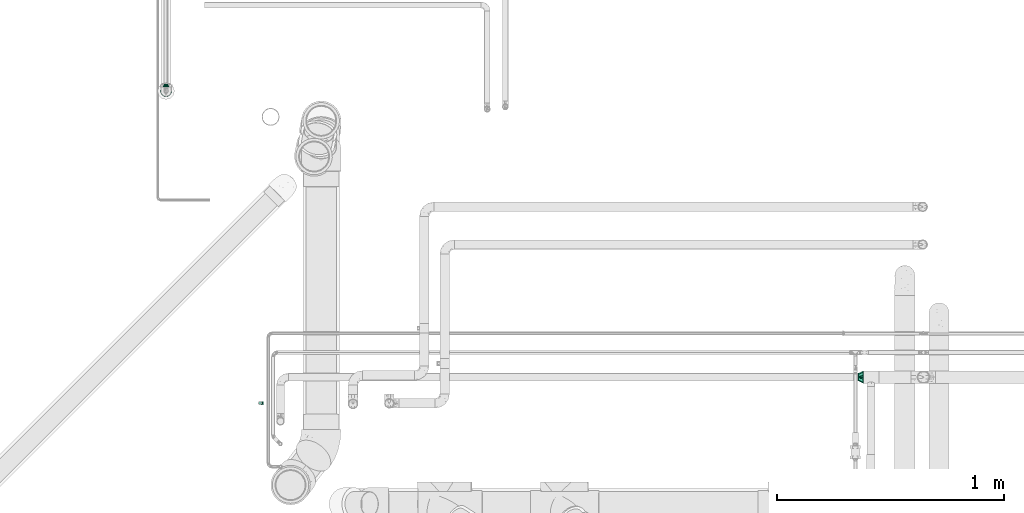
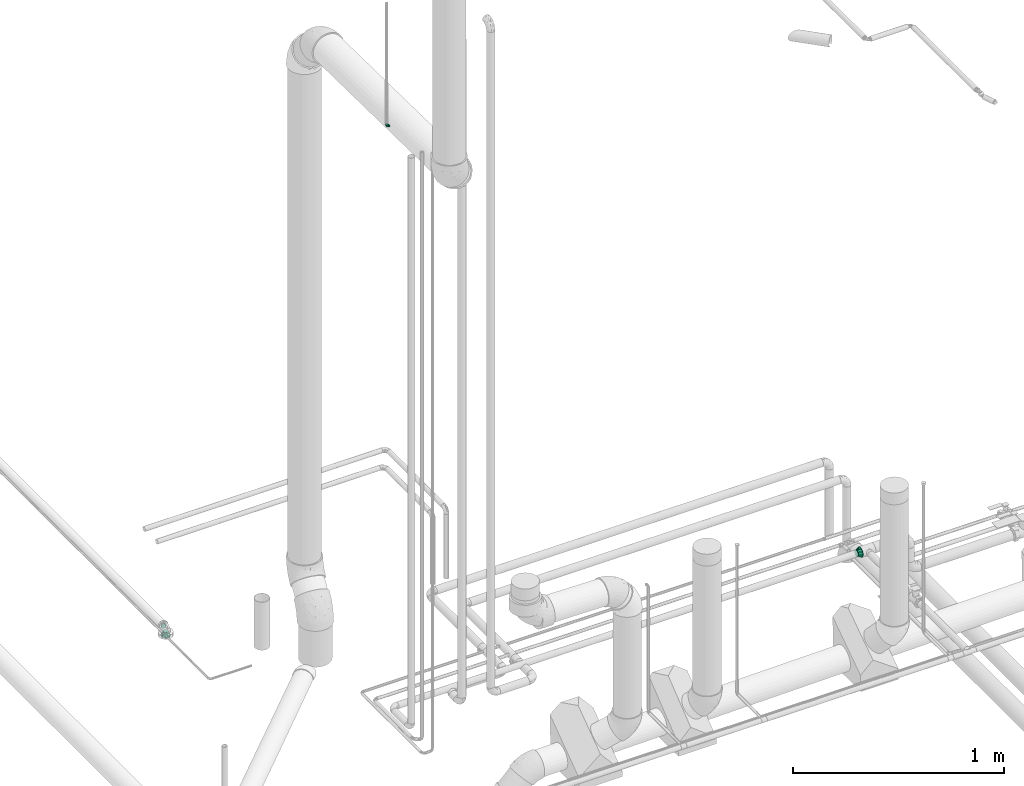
# One storey, part 151 of 156: 4 flow fittings.
"""IFC2X3 building model written with IfcOpenShell, lengths in millimetres."""

from ifc_helpers import new_model, entity, si_unit, converted_unit, derived_unit, direction, frame, origin_with_axes, place, context, subcontext, project, spatial, open_shell, surface_model, source, transform, mapped, type_object, element, save


model = new_model("IFC2X3")

# Units and contexts
model_context = context("Model", 3, precision=0.01, world=frame((0.0, 4.29681676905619e-09, 0.0)), true_north=direction((4.01073788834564e-13, 1.0)))
plan_context = context("Plan", 3, precision=0.01, world=frame((0.0, 4.29681676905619e-09, 0.0)), true_north=direction((4.01073788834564e-13, 1.0)))
body_context = subcontext(model_context, "Body", "Model", "MODEL_VIEW")
ifc_project = project(units=[converted_unit("PLANEANGLEUNIT", "DEGREE", entity("IfcPositiveLengthMeasure", 0.0174532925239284), si_unit("PLANEANGLEUNIT", "RADIAN"), dimensions=[0, 0, 0, 0, 0, 0, 0]), si_unit("AREAUNIT", "SQUARE_METRE"), si_unit("LENGTHUNIT", "METRE", prefix="MILLI"), si_unit("MASSUNIT", "GRAM", prefix="KILO"), si_unit("POWERUNIT", "WATT"), si_unit("PRESSUREUNIT", "PASCAL", prefix="KILO"), si_unit("FORCEUNIT", "NEWTON", prefix="KILO"), si_unit("ELECTRICVOLTAGEUNIT", "VOLT"), si_unit("ELECTRICCURRENTUNIT", "AMPERE"), si_unit("THERMODYNAMICTEMPERATUREUNIT", "DEGREE_CELSIUS"), si_unit("TIMEUNIT", "SECOND"), si_unit("VOLUMEUNIT", "CUBIC_METRE"), derived_unit("LINEARVELOCITYUNIT", [(si_unit("LENGTHUNIT", "METRE"), 1), (si_unit("TIMEUNIT", "SECOND"), -1)]), derived_unit("VOLUMETRICFLOWRATEUNIT", [(si_unit("VOLUMEUNIT", "CUBIC_METRE"), 1), (si_unit("TIMEUNIT", "SECOND"), -1)]), derived_unit("THERMALTRANSMITTANCEUNIT", [(si_unit("POWERUNIT", "WATT"), 1), (si_unit("THERMODYNAMICTEMPERATUREUNIT", "KELVIN"), -1), (si_unit("AREAUNIT", "SQUARE_METRE"), -1)]), derived_unit("SOUNDPRESSUREUNIT", [(si_unit("PRESSUREUNIT", "PASCAL"), 1)])], contexts=[model_context, plan_context])

# Site, building, storey
site_placement = place(None, frame((0.0, -4.29681676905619e-09, 0.0), z_axis=(0.0, 0.0, 1.0), x_axis=(1.0, 0.0, 0.0)))
site = spatial("IfcSite", under=ifc_project, at=site_placement, CompositionType="ELEMENT")
building_placement = place(site_placement, frame((0.0, 4.29681676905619e-09, 0.0), z_axis=(0.0, 0.0, 1.0), x_axis=(1.0, 0.0, 0.0)))
building = spatial("IfcBuilding", under=site, at=building_placement, Name="mc-building", CompositionType="ELEMENT")
storey_placement = place(building_placement, frame((0.0, 0.0, 205200.0), z_axis=(0.0, 0.0, 1.0), x_axis=(1.0, 0.0, 0.0)))
storey = spatial("IfcBuildingStorey", under=building, at=storey_placement, Name="Nivå D + 1,2 m", CompositionType="ELEMENT", Elevation=205200.0)

# Flow fittings
pipe_fitting_type_1 = type_object("IfcPipeFittingType", Name="magi_pipe_fe_reducer_centric_short_001", PredefinedType="TRANSITION")
shared_shape_1 = source(origin_with_axes(), body_context, "Body", "SurfaceModel", [
    surface_model("IfcShellBasedSurfaceModel", [(-2.0, 19.09188, 19.09188), (-2.0, 6.98811, 26.08), (-2.0, 13.5, 23.38269), (-2.0, 23.38269, 13.5), (-2.0, 26.08, 6.98811), (-2.0, -19.09188, 19.09188), (-2.0, -6.98811, 26.08), (-2.0, -13.5, 23.38269), (-2.0, -26.08, 6.98811), (-2.0, -23.38269, 13.5), (-2.0, -13.5, -23.38269), (-2.0, -26.08, -6.98811), (-2.0, -27.0, 0.0), (-2.0, 6.98811, -26.08), (-2.0, 26.08, -6.98811), (-2.0, 23.38269, -13.5), (-2.0, 19.09188, -19.09188), (-2.0, 13.5, -23.38269), (-2.0, -23.38269, -13.5), (-2.0, -19.09188, -19.09188), (-2.0, 27.0, 0.0), (0.0, 6.98811, -26.08), (0.0, 13.5, -23.38269), (0.0, 19.09188, -19.09188), (0.0, 26.08, 6.98811), (0.0, 23.38269, -13.5), (0.0, 26.08, -6.98811), (0.0, -26.08, 6.98811), (0.0, -13.5, -23.38269), (0.0, -23.38269, -13.5), (0.0, -19.09188, -19.09188), (0.0, -26.08, -6.98811), (0.0, 27.0, 0.0), (0.0, 23.38269, 13.5), (0.0, 19.09188, 19.09188), (0.0, 6.98811, 26.08), (0.0, 13.5, 23.38269), (0.0, 0.0, 27.0), (0.0, -19.09188, 19.09188), (0.0, -23.38269, 13.5), (0.0, -27.0, 0.0), (0.0, -6.98811, 26.08), (0.0, -13.5, 23.38269), (0.0, -6.98811, -26.08), (-2.0, -6.98811, -26.08), (0.0, 0.0, -27.0), (-2.0, 0.0, -27.0), (-2.0, 0.0, 27.0), (0.0, 8.34346, 25.67853), (0.0, 21.84346, 15.8702), (0.0, -21.84346, 15.8702), (0.0, -8.34346, 25.67853), (0.0, 8.34346, -25.67853), (0.0, -8.34346, -25.67853), (0.0, -21.84346, -15.8702), (21.0, 4.52933, -16.9037), (21.0, 8.75, -15.15544), (21.0, 12.37437, -12.37437), (21.0, 16.9037, -4.52933), (21.0, -8.75, -15.15544), (21.0, 15.15544, -8.75), (21.0, -16.9037, 4.52933), (21.0, -15.15544, -8.75), (21.0, 0.0, -17.5), (21.0, -4.52933, -16.9037), (21.0, -12.37437, -12.37437), (21.0, -17.5, 0.0), (21.0, -16.9037, -4.52933), (21.0, 0.0, 17.5), (21.0, 17.5, 0.0), (21.0, 16.9037, 4.52933), (21.0, 15.15544, 8.75), (21.0, 12.37437, 12.37437), (21.0, 4.52933, 16.9037), (21.0, 8.75, 15.15544), (21.0, -12.37437, 12.37437), (21.0, -15.15544, 8.75), (21.0, -8.75, 15.15544), (21.0, -4.52933, 16.9037), (19.0, 0.0, 17.5), (19.0, 4.52933, 16.9037), (19.0, 8.75, 15.15544), (19.0, -15.15544, -8.75), (19.0, 12.37437, 12.37437), (19.0, 15.15544, 8.75), (19.0, 16.9037, 4.52933), (19.0, -16.9037, 4.52933), (19.0, -8.75, 15.15544), (19.0, -12.37437, 12.37437), (19.0, -4.52933, 16.9037), (19.0, -15.15544, 8.75), (19.0, -17.5, 0.0), (19.0, 16.9037, -4.52933), (19.0, 12.37437, -12.37437), (19.0, 15.15544, -8.75), (19.0, 8.75, -15.15544), (19.0, 4.52933, -16.9037), (19.0, 0.0, -17.5), (19.0, -8.75, -15.15544), (19.0, -12.37437, -12.37437), (19.0, -16.9037, -4.52933), (19.0, -4.52933, -16.9037), (19.0, 17.5, 0.0), (0.0, 21.84346, -15.8702), (19.0, -13.65578, -9.28078), (19.0, 14.93718, -6.18718), (0.0, 24.42173, -7.9351), (0.0, 0.0, -25.67853), (19.0, -3.09359, -16.21859), (19.0, -14.93718, -6.18718), (0.0, -24.42173, -7.9351), (0.0, -23.1326, -11.90265), (0.0, 15.09346, -20.77436), (19.0, 9.28078, -13.65578), (19.0, 6.18718, -14.93718), (19.0, 3.09359, -16.21859), (19.0, 13.65578, -9.28078), (19.0, -16.21859, -3.09359), (0.0, -15.09346, -20.77436), (19.0, -6.18718, -14.93718), (19.0, -9.28078, -13.65578), (19.0, 16.21859, -3.09359), (19.0, 13.65578, 9.28078), (19.0, -14.93718, 6.18718), (0.0, -24.42173, 7.9351), (0.0, 0.0, 25.67853), (19.0, 3.09359, 16.21859), (19.0, 14.93718, 6.18718), (0.0, 24.42173, 7.9351), (0.0, 23.1326, 11.90265), (0.0, -15.09346, 20.77436), (19.0, -9.28078, 13.65578), (19.0, -6.18718, 14.93718), (19.0, -3.09359, 16.21859), (19.0, -13.65578, 9.28078), (19.0, 16.21859, 3.09359), (0.0, 15.09346, 20.77436), (19.0, 6.18718, 14.93718), (19.0, 9.28078, 13.65578), (19.0, -16.21859, 3.09359)], [open_shell([[[0, 1, 2]], [[0, 3, 4]], [[1, 0, 5]], [[4, 5, 0]], [[6, 5, 7]], [[5, 8, 9]], [[5, 10, 8]], [[8, 11, 12]], [[13, 5, 4]], [[14, 15, 4]], [[15, 16, 4]], [[16, 17, 13]], [[13, 4, 16]], [[5, 13, 10]], [[18, 10, 19]], [[10, 18, 11]], [[11, 8, 10]], [[4, 20, 14]], [[21, 22, 23]], [[24, 21, 23]], [[24, 25, 26]], [[24, 23, 25]], [[27, 28, 21]], [[28, 29, 30]], [[29, 28, 31]], [[28, 27, 31]], [[32, 24, 26]], [[24, 33, 34]], [[24, 34, 35]], [[24, 35, 27]], [[35, 34, 36]], [[27, 35, 37]], [[27, 38, 39]], [[40, 31, 27]], [[38, 41, 42]], [[38, 27, 37]], [[41, 38, 37]], [[27, 21, 24]], [[11, 31, 12]], [[18, 29, 11]], [[28, 19, 10]], [[18, 19, 30]], [[43, 10, 44]], [[11, 29, 31]], [[31, 40, 12]], [[43, 28, 10]], [[30, 19, 28]], [[30, 29, 18]], [[45, 43, 44]], [[44, 46, 45]], [[13, 21, 46]], [[17, 22, 13]], [[25, 16, 15]], [[17, 16, 23]], [[26, 15, 14]], [[17, 23, 22]], [[22, 21, 13]], [[32, 26, 14]], [[25, 15, 26]], [[25, 23, 16]], [[20, 32, 14]], [[46, 21, 45]], [[4, 24, 20]], [[3, 33, 4]], [[36, 0, 2]], [[3, 0, 34]], [[35, 2, 1]], [[4, 33, 24]], [[24, 32, 20]], [[35, 36, 2]], [[34, 0, 36]], [[34, 33, 3]], [[37, 35, 1]], [[1, 47, 37]], [[6, 41, 47]], [[7, 42, 6]], [[39, 5, 9]], [[7, 5, 38]], [[27, 9, 8]], [[7, 38, 42]], [[42, 41, 6]], [[40, 27, 8]], [[39, 9, 27]], [[39, 38, 5]], [[12, 40, 8]], [[47, 41, 37]], [[48, 49, 40]], [[48, 50, 51]], [[50, 48, 40]], [[49, 52, 40]], [[40, 53, 54]], [[40, 52, 53]], [[1, 6, 47]], [[6, 1, 5]], [[13, 44, 10]], [[46, 44, 13]], [[21, 43, 45]], [[21, 28, 43]], [[55, 56, 57]], [[55, 57, 58]], [[55, 58, 59]], [[58, 57, 60]], [[61, 62, 58]], [[63, 59, 64]], [[63, 55, 59]], [[59, 62, 65]], [[58, 62, 59]], [[62, 66, 67]], [[68, 58, 69]], [[70, 71, 72]], [[70, 72, 68]], [[73, 68, 72]], [[73, 72, 74]], [[68, 61, 58]], [[61, 75, 76]], [[66, 62, 61]], [[61, 77, 75]], [[77, 61, 78]], [[68, 78, 61]], [[69, 70, 68]], [[79, 80, 81]], [[82, 79, 81]], [[83, 84, 85]], [[83, 85, 81]], [[86, 79, 82]], [[87, 86, 88]], [[86, 87, 89]], [[88, 86, 90]], [[89, 79, 86]], [[86, 82, 91]], [[85, 82, 81]], [[85, 92, 82]], [[93, 92, 94]], [[93, 95, 96]], [[93, 96, 92]], [[97, 92, 96]], [[82, 98, 99]], [[100, 91, 82]], [[98, 97, 101]], [[98, 82, 92]], [[97, 98, 92]], [[92, 85, 102]], [[100, 67, 91]], [[82, 62, 100]], [[59, 99, 98]], [[82, 99, 65]], [[64, 98, 101]], [[100, 62, 67]], [[67, 66, 91]], [[64, 59, 98]], [[65, 99, 59]], [[65, 62, 82]], [[63, 64, 101]], [[101, 97, 63]], [[96, 55, 97]], [[95, 56, 96]], [[60, 93, 94]], [[95, 93, 57]], [[58, 94, 92]], [[95, 57, 56]], [[56, 55, 96]], [[69, 58, 92]], [[60, 94, 58]], [[60, 57, 93]], [[102, 69, 92]], [[97, 55, 63]], [[85, 70, 102]], [[84, 71, 85]], [[74, 83, 81]], [[84, 83, 72]], [[73, 81, 80]], [[85, 71, 70]], [[70, 69, 102]], [[73, 74, 81]], [[72, 83, 74]], [[72, 71, 84]], [[68, 73, 80]], [[80, 79, 68]], [[89, 78, 79]], [[87, 77, 89]], [[76, 88, 90]], [[87, 88, 75]], [[61, 90, 86]], [[87, 75, 77]], [[77, 78, 89]], [[66, 61, 86]], [[76, 90, 61]], [[76, 75, 88]], [[91, 66, 86]], [[79, 78, 68]], [[79, 88, 83]], [[102, 83, 88]], [[88, 99, 102]], [[99, 97, 102]], [[93, 102, 97]], [[88, 91, 99]], [[52, 49, 103]], [[103, 49, 32]], [[54, 99, 104]], [[105, 103, 106]], [[107, 108, 53]], [[109, 110, 111]], [[112, 113, 114]], [[52, 115, 107]], [[107, 115, 97]], [[116, 93, 103]], [[103, 105, 116]], [[112, 103, 93]], [[40, 117, 91]], [[99, 54, 118]], [[118, 119, 120]], [[40, 110, 117]], [[114, 52, 112]], [[32, 121, 106]], [[108, 119, 53]], [[108, 107, 97]], [[52, 114, 115]], [[121, 32, 102]], [[109, 117, 110]], [[54, 104, 111]], [[104, 109, 111]], [[112, 93, 113]], [[119, 118, 53]], [[120, 99, 118]], [[121, 105, 106]], [[49, 83, 122]], [[123, 50, 124]], [[125, 126, 48]], [[127, 128, 129]], [[130, 131, 132]], [[51, 133, 125]], [[125, 133, 79]], [[134, 88, 50]], [[50, 123, 134]], [[130, 50, 88]], [[32, 135, 102]], [[83, 49, 136]], [[136, 137, 138]], [[32, 128, 135]], [[132, 51, 130]], [[40, 139, 124]], [[126, 137, 48]], [[126, 125, 79]], [[51, 132, 133]], [[139, 40, 91]], [[127, 135, 128]], [[49, 122, 129]], [[122, 127, 129]], [[130, 88, 131]], [[137, 136, 48]], [[138, 83, 136]], [[139, 123, 124]]])]),
])
flow_fitting_1_placement = place(storey_placement, frame((326699.3046, 463284.5375, 4318.0), z_axis=(0.0, 0.0, 1.0), x_axis=(-1.0, 0.0, 0.0)))
element("IfcFlowFitting", 1, at=flow_fitting_1_placement, inside=storey, type_object=pipe_fitting_type_1, Name="magi_pipe_fe_reducer_centric_short_001", context=body_context, shape_type="MappedRepresentation", body=[
    mapped(shared_shape_1, transform((0.0, 0.0, 0.0), scale=1.0)),
])
pipe_fitting_type_2 = type_object("IfcPipeFittingType", Name="magi_pipe_elbow_short_001", PredefinedType="BEND")
shared_shape_2 = source(origin_with_axes(), body_context, "Body", "SurfaceModel", [
    surface_model("IfcShellBasedSurfaceModel", [(-15.00592, 0.0, -7.5), (-15.00592, -6.49519, -3.75), (-15.00592, 1.94114, -7.24444), (-15.00592, 3.75, -6.49519), (-15.00592, 5.3033, -5.3033), (-15.00592, 6.49519, -3.75), (-15.00592, 7.24444, -1.94114), (-15.00592, -5.3033, -5.3033), (-15.00592, -3.75, -6.49519), (-15.00592, -1.94114, -7.24444), (-15.00592, -7.24444, -1.94114), (-15.00592, -7.5, 0.0), (-15.00592, -6.49519, 3.75), (-15.00592, 7.24444, 1.94114), (-15.00592, 6.49519, 3.75), (-15.00592, 3.75, 6.49519), (-15.00592, 1.94114, 7.24444), (-15.00592, 5.3033, 5.3033), (-15.00592, -5.3033, 5.3033), (-15.00592, -7.24444, 1.94114), (-15.00592, -1.94114, 7.24444), (-15.00592, 0.0, 7.5), (-15.00592, -3.75, 6.49519), (-15.00592, 7.5, 0.0), (-5.30923, 15.00383, -5.3033), (-0.00593, 15.00592, -7.5), (-1.94707, 15.00516, -7.24444), (-3.75593, 15.00444, -6.49519), (-6.50112, 15.00336, -3.75), (-7.25037, 15.00306, -1.94114), (6.48926, 15.00849, -3.75), (5.29737, 15.00802, 5.3033), (3.74407, 15.0074, -6.49519), (5.29737, 15.00802, -5.3033), (1.93522, 15.00669, -7.24444), (7.49407, 15.00888, 0.0), (7.23852, 15.00878, -1.94114), (6.48926, 15.00849, 3.75), (-7.25037, 15.00306, 1.94114), (-3.75593, 15.00444, 6.49519), (-6.50112, 15.00336, 3.75), (-1.94707, 15.00516, 7.24444), (-5.30923, 15.00383, 5.3033), (7.23852, 15.00878, 1.94114), (3.74407, 15.0074, 6.49519), (-0.00593, 15.00592, 7.5), (1.93522, 15.00669, 7.24444), (-7.50592, 15.00296, 0.0), (-13.41441, -7.07344, 0.0), (-8.76363, -2.47762, 6.60182), (-8.63988, -5.79377, 0.0), (-3.75336, -4.48409, 0.0), (0.36462, -0.36448, 0.0), (2.42362, 1.69532, 0.0), (-2.25484, 0.98306, 6.37616), (-1.69437, -2.42429, 0.0), (-11.8229, -6.64689, 0.0), (-5.92887, 5.92653, 7.18053), (-4.11741, 8.02675, 7.20869), (2.47416, 8.76461, 6.60182), (1.6764, 4.87884, 5.9906), (4.48261, 3.75513, 0.0), (-4.78625, -1.73244, 5.9186), (7.06815, 13.4172, 0.0), (6.64222, 11.82552, 0.0), (-8.02837, 4.11424, 7.20869), (-8.60375, 12.35035, 0.0), (-12.35375, 8.59887, 0.0), (-9.70158, 9.69775, 0.0), (5.79036, 8.64216, 0.0), (-8.76363, -2.47762, -6.60182), (-4.11741, 8.02675, -7.20869), (0.71046, 3.43571, -5.9906), (-2.24493, 1.78281, -6.69913), (2.47416, 8.76461, -6.60182), (-11.39777, 6.08029, -5.22738), (-7.0919, 1.82329, -7.49083), (-8.19976, 6.76009, -6.13606)], [open_shell([[[0, 1, 2]], [[3, 2, 4]], [[5, 4, 1]], [[1, 4, 2]], [[6, 5, 1]], [[7, 1, 8]], [[9, 8, 1]], [[10, 11, 1]], [[0, 9, 1]], [[11, 12, 1]], [[12, 6, 1]], [[13, 6, 12]], [[14, 13, 15]], [[13, 16, 15]], [[17, 14, 15]], [[16, 13, 12]], [[12, 18, 16]], [[12, 11, 19]], [[20, 21, 22]], [[18, 22, 21]], [[16, 18, 21]], [[13, 23, 6]], [[24, 25, 26]], [[24, 26, 27]], [[24, 28, 29]], [[25, 24, 30]], [[31, 30, 24]], [[32, 30, 33]], [[32, 34, 25]], [[30, 35, 36]], [[32, 25, 30]], [[30, 37, 35]], [[31, 24, 29]], [[31, 29, 38]], [[39, 38, 40]], [[39, 41, 38]], [[39, 40, 42]], [[31, 38, 41]], [[31, 37, 30]], [[43, 35, 37]], [[44, 45, 46]], [[44, 31, 41]], [[44, 41, 45]], [[47, 38, 29]], [[19, 48, 12]], [[49, 50, 51]], [[52, 53, 54]], [[54, 55, 52]], [[22, 18, 56]], [[12, 56, 18]], [[57, 54, 58]], [[22, 50, 20]], [[21, 20, 50]], [[59, 60, 61]], [[59, 58, 60]], [[55, 54, 62]], [[21, 50, 49]], [[21, 49, 16]], [[62, 49, 51]], [[62, 51, 55]], [[37, 63, 43]], [[49, 15, 16]], [[64, 63, 37]], [[13, 65, 23]], [[14, 17, 49]], [[54, 65, 62]], [[15, 49, 17]], [[57, 58, 66]], [[67, 57, 68]], [[53, 60, 54]], [[46, 45, 69]], [[69, 44, 46]], [[42, 59, 39]], [[41, 59, 45]], [[31, 44, 64]], [[54, 60, 58]], [[64, 44, 69]], [[61, 60, 53]], [[43, 63, 35]], [[59, 61, 69]], [[58, 47, 66]], [[22, 56, 50]], [[54, 57, 65]], [[49, 65, 14]], [[38, 47, 58]], [[64, 37, 31]], [[40, 38, 58]], [[14, 65, 13]], [[42, 40, 59]], [[19, 11, 48]], [[40, 58, 59]], [[48, 56, 12]], [[39, 59, 41]], [[59, 69, 45]], [[49, 62, 65]], [[57, 67, 65]], [[66, 68, 57]], [[67, 23, 65]], [[70, 50, 0]], [[71, 72, 73]], [[74, 71, 28]], [[70, 2, 3]], [[70, 51, 50]], [[36, 35, 63]], [[75, 4, 5]], [[75, 6, 23]], [[5, 6, 75]], [[51, 76, 55]], [[75, 23, 67]], [[70, 4, 75]], [[48, 11, 10]], [[8, 56, 7]], [[0, 50, 9]], [[51, 70, 76]], [[56, 8, 50]], [[8, 9, 50]], [[70, 0, 2]], [[74, 72, 71]], [[52, 72, 53]], [[4, 70, 3]], [[70, 75, 76]], [[73, 52, 55]], [[29, 71, 47]], [[61, 53, 72]], [[32, 64, 69]], [[71, 77, 68]], [[24, 74, 28]], [[56, 1, 7]], [[27, 26, 74]], [[63, 64, 30]], [[56, 48, 1]], [[27, 74, 24]], [[1, 48, 10]], [[25, 74, 26]], [[34, 69, 25]], [[28, 71, 29]], [[33, 64, 32]], [[69, 34, 32]], [[71, 68, 66]], [[74, 25, 69]], [[30, 36, 63]], [[61, 72, 74]], [[61, 74, 69]], [[67, 77, 75]], [[66, 47, 71]], [[30, 64, 33]], [[76, 77, 73]], [[75, 77, 76]], [[77, 71, 73]], [[55, 76, 73]], [[72, 52, 73]], [[77, 67, 68]]])]),
])
flow_fitting_2_placement = place(storey_placement, frame((324038.4875, 463170.0, 7783.39556), z_axis=(0.0, -1.0, 0.0), x_axis=(0.0, 0.0, -1.0)))
element("IfcFlowFitting", 2, at=flow_fitting_2_placement, inside=storey, type_object=pipe_fitting_type_2, Name="magi_pipe_elbow_short_001", context=body_context, shape_type="MappedRepresentation", body=[
    mapped(shared_shape_2, transform((0.0, 0.0, 0.0), scale=1.0)),
])
shared_shape_3 = source(origin_with_axes(), body_context, "Body", "SurfaceModel", [
    surface_model("IfcShellBasedSurfaceModel", [(-2.0, 9.47523, 9.47523), (-2.0, 0.0, 13.4), (-2.0, 3.46818, 12.94341), (-2.0, 6.7, -11.60474), (-2.0, 3.46818, -12.94341), (-2.0, -3.46818, -12.94341), (0.0, 9.47523, 9.47523), (0.0, 9.47523, -9.47523), (0.0, -13.4, 0.0), (0.0, 13.4, 0.0), (8.8, -4.5, -7.79423), (0.0, 0.0, -13.4), (8.8, 4.5, -7.79423), (8.8, 4.5, 7.79423), (0.0, 0.0, 13.4), (8.8, -4.5, 7.79423), (-2.0, -3.46818, 12.94341), (-2.0, -6.7, 11.60474), (-2.0, -12.94341, 3.46818), (-2.0, -11.60474, 6.7), (-2.0, -9.47523, 9.47523), (-2.0, 6.7, 11.60474), (-2.0, 11.60474, 6.7), (-2.0, 12.94341, 3.46818), (-2.0, 13.4, 0.0), (-2.0, -13.4, 0.0), (-2.0, -12.94341, -3.46818), (-2.0, -6.7, -11.60474), (-2.0, -11.60474, -6.7), (-2.0, -9.47523, -9.47523), (-2.0, 11.60474, -6.7), (-2.0, 9.47523, -9.47523), (-2.0, 12.94341, -3.46818), (-2.0, 0.0, -13.4), (0.0, -6.7, -11.60474), (0.0, -3.46818, -12.94341), (0.0, -9.47523, -9.47523), (0.0, -11.60474, -6.7), (0.0, -12.94341, -3.46818), (0.0, 6.7, -11.60474), (0.0, 3.46818, -12.94341), (0.0, 11.60474, -6.7), (0.0, 12.94341, -3.46818), (0.0, 12.94341, 3.46818), (0.0, -12.94341, 3.46818), (0.0, -9.47523, 9.47523), (0.0, -11.60474, 6.7), (0.0, -3.46818, 12.94341), (0.0, -6.7, 11.60474), (0.0, 11.60474, 6.7), (0.0, 6.7, 11.60474), (0.0, 3.46818, 12.94341), (10.8, -2.32937, -8.69333), (10.8, 6.36396, -6.36396), (10.8, -4.5, -7.79423), (10.8, -6.36396, -6.36396), (10.8, -8.69333, -2.32937), (10.8, -7.79423, -4.5), (10.8, 8.69333, -2.32937), (10.8, 6.36396, 6.36396), (10.8, 2.32937, -8.69333), (10.8, 4.5, -7.79423), (10.8, 0.0, -9.0), (10.8, 7.79423, -4.5), (10.8, -8.69333, 2.32937), (10.8, -9.0, 0.0), (10.8, -7.79423, 4.5), (10.8, -6.36396, 6.36396), (10.8, -4.5, 7.79423), (10.8, 0.0, 9.0), (10.8, -2.32937, 8.69333), (10.8, 2.32937, 8.69333), (10.8, 7.79423, 4.5), (10.8, 8.69333, 2.32937), (10.8, 9.0, 0.0), (10.8, 4.5, 7.79423), (8.8, -2.32937, 8.69333), (8.8, 0.0, 9.0), (8.8, -7.79423, 4.5), (8.8, 8.69333, -2.32937), (8.8, 2.32937, 8.69333), (8.8, -6.36396, 6.36396), (8.8, 6.36396, 6.36396), (8.8, 9.0, 0.0), (8.8, 7.79423, 4.5), (8.8, 8.69333, 2.32937), (8.8, -8.69333, 2.32937), (8.8, -8.69333, -2.32937), (8.8, -7.79423, -4.5), (8.8, -6.36396, -6.36396), (8.8, -2.32937, -8.69333), (8.8, 7.79423, -4.5), (8.8, 6.36396, -6.36396), (8.8, 2.32937, -8.69333), (8.8, 0.0, -9.0), (8.8, -9.0, 0.0)], [open_shell([[[0, 1, 2]], [[3, 4, 5]], [[6, 7, 8]], [[7, 6, 9]], [[10, 11, 12]], [[13, 14, 15]], [[16, 1, 0]], [[16, 0, 17]], [[18, 19, 20]], [[17, 18, 20]], [[18, 17, 0]], [[21, 0, 2]], [[22, 23, 0]], [[0, 23, 18]], [[24, 3, 23]], [[25, 18, 23]], [[26, 25, 27]], [[28, 26, 29]], [[25, 5, 27]], [[29, 26, 27]], [[3, 5, 25]], [[30, 31, 32]], [[31, 24, 32]], [[31, 3, 24]], [[5, 4, 33]], [[25, 23, 3]], [[34, 35, 8]], [[36, 34, 37]], [[34, 8, 38]], [[37, 34, 38]], [[39, 8, 35]], [[11, 40, 35]], [[40, 39, 35]], [[41, 42, 7]], [[7, 42, 43]], [[43, 39, 7]], [[44, 8, 39]], [[45, 46, 44]], [[14, 45, 44]], [[14, 47, 48]], [[45, 14, 48]], [[6, 14, 44]], [[49, 6, 43]], [[43, 42, 9]], [[50, 51, 6]], [[6, 39, 43]], [[14, 6, 51]], [[6, 44, 39]], [[24, 42, 32]], [[32, 41, 30]], [[3, 31, 39]], [[7, 31, 30]], [[4, 3, 40]], [[42, 41, 32]], [[24, 9, 42]], [[3, 39, 40]], [[39, 31, 7]], [[30, 41, 7]], [[4, 40, 11]], [[11, 33, 4]], [[33, 35, 5]], [[5, 34, 27]], [[28, 29, 37]], [[36, 29, 27]], [[26, 28, 38]], [[34, 36, 27]], [[5, 35, 34]], [[26, 38, 8]], [[38, 28, 37]], [[29, 36, 37]], [[26, 8, 25]], [[11, 35, 33]], [[25, 44, 18]], [[18, 46, 19]], [[17, 20, 48]], [[45, 20, 19]], [[16, 17, 47]], [[44, 46, 18]], [[25, 8, 44]], [[17, 48, 47]], [[48, 20, 45]], [[19, 46, 45]], [[16, 47, 14]], [[14, 1, 16]], [[1, 51, 2]], [[2, 50, 21]], [[22, 0, 49]], [[6, 0, 21]], [[23, 22, 43]], [[50, 6, 21]], [[2, 51, 50]], [[23, 43, 9]], [[43, 22, 49]], [[0, 6, 49]], [[23, 9, 24]], [[14, 51, 1]], [[6, 8, 45]], [[45, 14, 6]], [[52, 53, 54]], [[55, 54, 56]], [[56, 54, 53]], [[57, 55, 56]], [[56, 58, 59]], [[60, 61, 62]], [[61, 52, 62]], [[63, 58, 53]], [[53, 52, 61]], [[53, 58, 56]], [[64, 65, 56]], [[56, 59, 66]], [[67, 66, 68]], [[69, 70, 68]], [[66, 69, 68]], [[69, 66, 71]], [[72, 59, 73]], [[73, 58, 74]], [[75, 71, 59]], [[59, 58, 73]], [[66, 59, 71]], [[64, 56, 66]], [[15, 76, 77]], [[78, 15, 77]], [[79, 77, 80]], [[81, 15, 78]], [[77, 79, 78]], [[13, 82, 80]], [[83, 80, 82]], [[84, 85, 82]], [[83, 82, 85]], [[79, 80, 83]], [[86, 78, 87]], [[87, 78, 79]], [[88, 87, 89]], [[79, 10, 87]], [[89, 87, 10]], [[10, 12, 90]], [[91, 92, 79]], [[92, 10, 79]], [[93, 94, 12]], [[10, 92, 12]], [[90, 12, 94]], [[95, 86, 87]], [[83, 58, 79]], [[79, 63, 91]], [[12, 92, 61]], [[53, 92, 91]], [[93, 12, 60]], [[58, 63, 79]], [[83, 74, 58]], [[12, 61, 60]], [[61, 92, 53]], [[91, 63, 53]], [[93, 60, 62]], [[62, 94, 93]], [[94, 52, 90]], [[90, 54, 10]], [[88, 89, 57]], [[55, 89, 10]], [[87, 88, 56]], [[54, 55, 10]], [[90, 52, 54]], [[87, 56, 65]], [[56, 88, 57]], [[89, 55, 57]], [[87, 65, 95]], [[62, 52, 94]], [[95, 64, 86]], [[86, 66, 78]], [[15, 81, 68]], [[67, 81, 78]], [[76, 15, 70]], [[64, 66, 86]], [[95, 65, 64]], [[15, 68, 70]], [[68, 81, 67]], [[78, 66, 67]], [[76, 70, 69]], [[69, 77, 76]], [[77, 71, 80]], [[80, 75, 13]], [[84, 82, 72]], [[59, 82, 13]], [[85, 84, 73]], [[75, 59, 13]], [[80, 71, 75]], [[85, 73, 74]], [[73, 84, 72]], [[82, 59, 72]], [[85, 74, 83]], [[69, 71, 77]], [[83, 13, 15]], [[10, 83, 15]], [[95, 10, 15]], [[12, 83, 10]], [[8, 7, 11]], [[11, 36, 8]], [[36, 10, 95]], [[95, 8, 36]], [[36, 11, 10]], [[7, 83, 12]], [[11, 7, 12]], [[9, 83, 7]], [[6, 13, 83]], [[83, 9, 6]], [[6, 14, 13]], [[45, 95, 15]], [[14, 45, 15]], [[8, 95, 45]]])]),
])
flow_fitting_3_placement = place(storey_placement, frame((323623.87367, 464566.93316, 4190.50902999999), z_axis=(0.0, 0.0, 1.0), x_axis=(0.0, 1.0, 0.0)))
element("IfcFlowFitting", 3, at=flow_fitting_3_placement, inside=storey, type_object=pipe_fitting_type_1, Name="magi_pipe_fe_reducer_centric_short_001", context=body_context, shape_type="MappedRepresentation", body=[
    mapped(shared_shape_3, transform((0.0, 0.0, 0.0), scale=1.0)),
])
shared_shape_4 = source(origin_with_axes(), body_context, "Body", "SurfaceModel", [
    surface_model("IfcShellBasedSurfaceModel", [(-2.0, -9.47523, 9.47523), (-2.0, 0.0, 13.4), (-2.0, 3.46818, 12.94341), (-2.0, 6.7, 11.60474), (-2.0, 9.47523, 9.47523), (-2.0, 11.60474, 6.7), (-2.0, 12.94341, 3.46818), (-2.0, -3.46818, 12.94341), (-2.0, -6.7, 11.60474), (-2.0, -12.94341, 3.46818), (-2.0, -11.60474, 6.7), (-2.0, -6.7, -11.60474), (-2.0, -12.94341, -3.46818), (-2.0, -13.4, 0.0), (-2.0, 12.94341, -3.46818), (-2.0, 6.7, -11.60474), (-2.0, 9.47523, -9.47523), (-2.0, 11.60474, -6.7), (-2.0, 3.46818, -12.94341), (-2.0, 0.0, -13.4), (-2.0, -9.47523, -9.47523), (-2.0, -11.60474, -6.7), (-2.0, -3.46818, -12.94341), (-2.0, 13.4, 0.0), (0.0, 12.94341, -3.46818), (0.0, 3.46818, -12.94341), (0.0, 6.7, -11.60474), (0.0, 11.60474, -6.7), (0.0, 9.47523, -9.47523), (0.0, -6.7, -11.60474), (0.0, -12.94341, 3.46818), (0.0, -3.46818, -12.94341), (0.0, 0.0, -13.4), (0.0, -9.47523, -9.47523), (0.0, -12.94341, -3.46818), (0.0, -11.60474, -6.7), (0.0, 13.4, 0.0), (0.0, 12.94341, 3.46818), (0.0, 11.60474, 6.7), (0.0, 9.47523, 9.47523), (0.0, 0.0, 13.4), (0.0, 6.7, 11.60474), (0.0, 3.46818, 12.94341), (0.0, -9.47523, 9.47523), (0.0, -11.60474, 6.7), (0.0, -13.4, 0.0), (0.0, -3.46818, 12.94341), (0.0, -6.7, 11.60474), (23.6, 24.2, 0.0), (23.6, 6.26342, -23.37541), (23.6, 12.1, -20.95781), (23.6, 23.37541, -6.26342), (23.6, 17.11198, -17.11198), (23.6, 20.95781, -12.1), (23.6, -24.2, 0.0), (23.6, -12.1, -20.95781), (23.6, -6.26342, -23.37541), (23.6, 0.0, -24.2), (23.6, -17.11198, -17.11198), (23.6, -23.37541, -6.26342), (23.6, -20.95781, -12.1), (23.6, 20.95781, 12.1), (23.6, 17.11198, 17.11198), (23.6, 12.1, 20.95781), (23.6, 6.26342, 23.37541), (23.6, 0.0, 24.2), (23.6, -23.37541, 6.26342), (23.6, -17.11198, 17.11198), (23.6, -20.95781, 12.1), (23.6, -6.26342, 23.37541), (23.6, -12.1, 20.95781), (23.6, 23.37541, 6.26342), (21.6, 0.0, 24.2), (21.6, 6.26342, 23.37541), (21.6, 12.1, 20.95781), (21.6, 17.11198, 17.11198), (21.6, 6.26342, -23.37541), (21.6, 20.95781, 12.1), (21.6, -23.37541, 6.26342), (21.6, -17.11198, -17.11198), (21.6, -6.26342, 23.37541), (21.6, -17.11198, 17.11198), (21.6, -12.1, 20.95781), (21.6, -20.95781, 12.1), (21.6, -24.2, 0.0), (21.6, 23.37541, 6.26342), (21.6, 24.2, 0.0), (21.6, 23.37541, -6.26342), (21.6, 17.11198, -17.11198), (21.6, 20.95781, -12.1), (21.6, 12.1, -20.95781), (21.6, -23.37541, -6.26342), (21.6, -20.95781, -12.1), (21.6, -6.26342, -23.37541), (21.6, -12.1, -20.95781), (21.6, 0.0, -24.2), (21.6, 7.47821, 23.01557), (21.6, -7.47821, 23.01557), (21.6, 19.57821, -14.2244), (21.6, 19.57821, 14.2244), (21.6, -19.57821, 14.2244), (21.6, -19.57821, -14.2244), (21.6, 7.47821, -23.01557), (21.6, -7.47821, -23.01557), (0.0, 10.45642, -7.10642), (21.6, -13.52821, -18.61999), (0.0, 11.43761, -4.73762), (21.6, 21.8891, -7.1122), (21.6, 20.73366, -10.6683), (0.0, -7.10642, -10.45642), (0.0, -4.73762, -11.43761), (21.6, 0.0, -23.01557), (0.0, 2.36881, -12.41881), (0.0, -11.43761, -4.73762), (0.0, -10.45642, -7.10642), (0.0, -2.36881, -12.41881), (0.0, 12.41881, -2.36881), (21.6, 13.52821, -18.61999), (0.0, 4.73762, -11.43761), (0.0, 7.10642, -10.45642), (0.0, -12.41881, -2.36881), (21.6, -21.8891, -7.1122), (0.0, -10.45642, 7.10642), (21.6, 13.52821, 18.61999), (0.0, -11.43761, 4.73762), (21.6, -21.8891, 7.1122), (21.6, -20.73366, 10.6683), (0.0, 7.10642, 10.45642), (0.0, 4.73762, 11.43761), (21.6, 0.0, 23.01557), (0.0, -2.36881, 12.41881), (0.0, 11.43761, 4.73762), (0.0, 10.45642, 7.10642), (0.0, 2.36881, 12.41881), (0.0, -12.41881, 2.36881), (21.6, -13.52821, 18.61999), (0.0, -4.73762, 11.43761), (0.0, -7.10642, 10.45642), (0.0, 12.41881, 2.36881), (21.6, 21.8891, 7.1122)], [open_shell([[[0, 1, 2]], [[3, 0, 2]], [[4, 5, 6]], [[4, 6, 3]], [[0, 3, 6]], [[7, 0, 8]], [[7, 1, 0]], [[0, 9, 10]], [[0, 11, 9]], [[9, 12, 13]], [[14, 0, 6]], [[0, 14, 15]], [[16, 14, 17]], [[18, 0, 15]], [[15, 14, 16]], [[18, 19, 0]], [[12, 20, 21]], [[12, 9, 20]], [[22, 11, 0]], [[9, 11, 20]], [[22, 0, 19]], [[23, 14, 6]], [[24, 25, 26]], [[27, 26, 28]], [[29, 25, 30]], [[24, 26, 27]], [[25, 24, 30]], [[25, 31, 32]], [[25, 29, 31]], [[33, 34, 35]], [[30, 34, 33]], [[33, 29, 30]], [[24, 36, 30]], [[37, 38, 39]], [[37, 39, 40]], [[41, 42, 40]], [[41, 40, 39]], [[37, 40, 43]], [[30, 43, 44]], [[45, 34, 30]], [[43, 46, 47]], [[43, 30, 37]], [[46, 43, 40]], [[30, 36, 37]], [[12, 34, 13]], [[21, 35, 12]], [[29, 20, 11]], [[21, 20, 33]], [[31, 11, 22]], [[12, 35, 34]], [[34, 45, 13]], [[31, 29, 11]], [[33, 20, 29]], [[33, 35, 21]], [[32, 31, 22]], [[22, 19, 32]], [[18, 25, 19]], [[15, 26, 18]], [[27, 16, 17]], [[15, 16, 28]], [[24, 17, 14]], [[15, 28, 26]], [[26, 25, 18]], [[36, 24, 14]], [[27, 17, 24]], [[27, 28, 16]], [[23, 36, 14]], [[19, 25, 32]], [[6, 37, 23]], [[5, 38, 6]], [[41, 4, 3]], [[5, 4, 39]], [[42, 3, 2]], [[6, 38, 37]], [[37, 36, 23]], [[42, 41, 3]], [[39, 4, 41]], [[39, 38, 5]], [[40, 42, 2]], [[2, 1, 40]], [[7, 46, 1]], [[8, 47, 7]], [[44, 0, 10]], [[8, 0, 43]], [[30, 10, 9]], [[8, 43, 47]], [[47, 46, 7]], [[45, 30, 9]], [[44, 10, 30]], [[44, 43, 0]], [[13, 45, 9]], [[1, 46, 40]], [[33, 43, 40]], [[33, 45, 43]], [[40, 39, 36]], [[36, 28, 33]], [[32, 33, 28]], [[36, 33, 40]], [[48, 49, 50]], [[51, 50, 52]], [[51, 48, 50]], [[51, 52, 53]], [[49, 54, 55]], [[49, 56, 57]], [[49, 55, 56]], [[58, 59, 60]], [[58, 55, 54]], [[58, 54, 59]], [[49, 48, 61]], [[61, 62, 49]], [[49, 62, 54]], [[63, 64, 65]], [[63, 65, 62]], [[54, 62, 65]], [[66, 67, 68]], [[69, 66, 54]], [[67, 69, 70]], [[69, 67, 66]], [[54, 65, 69]], [[48, 71, 61]], [[72, 73, 74]], [[72, 74, 75]], [[76, 75, 77]], [[78, 72, 79]], [[72, 75, 79]], [[80, 81, 82]], [[80, 72, 81]], [[81, 78, 83]], [[72, 78, 81]], [[78, 79, 84]], [[76, 77, 85]], [[76, 86, 87]], [[88, 87, 89]], [[90, 76, 87]], [[90, 87, 88]], [[76, 79, 75]], [[91, 79, 92]], [[84, 79, 91]], [[76, 93, 94]], [[94, 79, 76]], [[93, 76, 95]], [[85, 86, 76]], [[91, 59, 84]], [[92, 60, 91]], [[55, 79, 94]], [[92, 79, 58]], [[56, 94, 93]], [[91, 60, 59]], [[59, 54, 84]], [[56, 55, 94]], [[58, 79, 55]], [[58, 60, 92]], [[57, 56, 93]], [[93, 95, 57]], [[76, 49, 95]], [[90, 50, 76]], [[53, 88, 89]], [[90, 88, 52]], [[51, 89, 87]], [[90, 52, 50]], [[50, 49, 76]], [[48, 51, 87]], [[53, 89, 51]], [[53, 52, 88]], [[86, 48, 87]], [[95, 49, 57]], [[85, 71, 86]], [[77, 61, 85]], [[63, 75, 74]], [[77, 75, 62]], [[64, 74, 73]], [[85, 61, 71]], [[71, 48, 86]], [[64, 63, 74]], [[62, 75, 63]], [[62, 61, 77]], [[65, 64, 73]], [[73, 72, 65]], [[80, 69, 72]], [[82, 70, 80]], [[68, 81, 83]], [[82, 81, 67]], [[66, 83, 78]], [[82, 67, 70]], [[70, 69, 80]], [[54, 66, 78]], [[68, 83, 66]], [[68, 67, 81]], [[84, 54, 78]], [[72, 69, 65]], [[84, 96, 97]], [[96, 98, 99]], [[86, 99, 98]], [[84, 97, 100]], [[84, 101, 102]], [[84, 102, 98]], [[102, 101, 103]], [[84, 98, 96]], [[98, 28, 104]], [[105, 101, 33]], [[106, 107, 108]], [[105, 109, 110]], [[111, 112, 102]], [[101, 113, 114]], [[111, 115, 32]], [[114, 33, 101]], [[110, 103, 105]], [[103, 110, 115]], [[86, 116, 36]], [[28, 98, 117]], [[117, 118, 119]], [[86, 107, 116]], [[84, 120, 121]], [[103, 115, 111]], [[112, 118, 102]], [[112, 111, 32]], [[113, 101, 121]], [[120, 84, 45]], [[106, 116, 107]], [[98, 104, 108]], [[104, 106, 108]], [[105, 33, 109]], [[118, 117, 102]], [[119, 28, 117]], [[120, 113, 121]], [[100, 43, 122]], [[123, 99, 39]], [[124, 125, 126]], [[123, 127, 128]], [[129, 130, 97]], [[99, 131, 132]], [[129, 133, 40]], [[132, 39, 99]], [[128, 96, 123]], [[96, 128, 133]], [[84, 134, 45]], [[43, 100, 135]], [[135, 136, 137]], [[84, 125, 134]], [[86, 138, 139]], [[96, 133, 129]], [[130, 136, 97]], [[130, 129, 40]], [[131, 99, 139]], [[138, 86, 36]], [[124, 134, 125]], [[100, 122, 126]], [[122, 124, 126]], [[123, 39, 127]], [[136, 135, 97]], [[137, 43, 135]], [[138, 131, 139]]])]),
])
flow_fitting_4_placement = place(storey_placement, frame((323623.87367, 464546.93316, 4170.50902999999), z_axis=(-1.0, 0.0, 0.0), x_axis=(0.0, 0.0, -1.0)))
element("IfcFlowFitting", 4, at=flow_fitting_4_placement, inside=storey, type_object=pipe_fitting_type_1, Name="magi_pipe_fe_reducer_centric_short_001", context=body_context, shape_type="MappedRepresentation", body=[
    mapped(shared_shape_4, transform((0.0, 0.0, 0.0), scale=1.0)),
])

save(model, "model.ifc")
